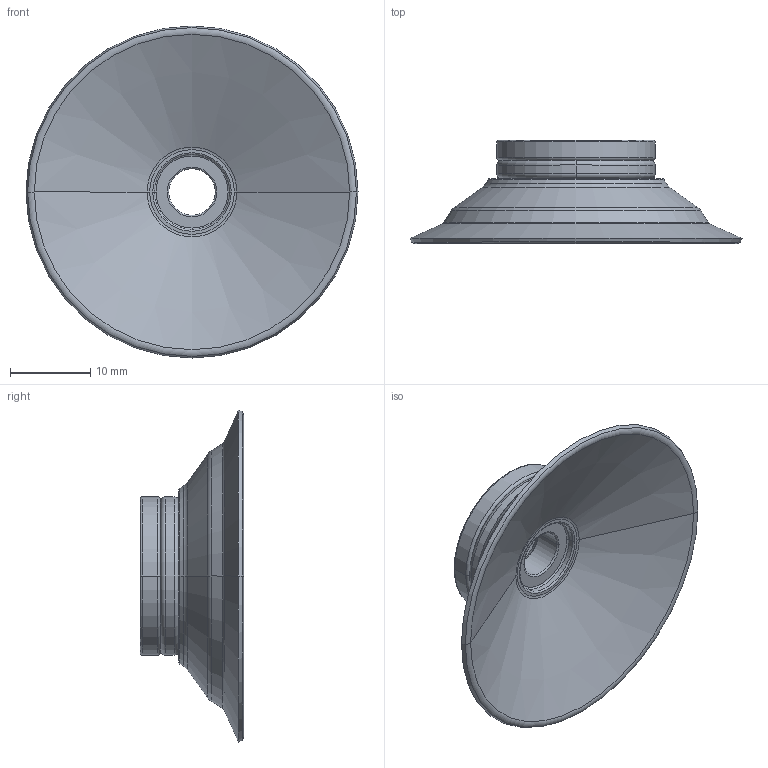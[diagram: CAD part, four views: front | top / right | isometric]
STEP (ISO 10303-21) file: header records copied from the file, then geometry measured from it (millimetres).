
FILE_DESCRIPTION (( 'STEP AP203' ), '1' );
FILE_NAME ('9_40--A.STEP', '2017-10-04T13:06:20', ( '' ), ( '' ), 'SwSTEP 2.0', 'SolidWorks 2016', '' );
FILE_SCHEMA (( 'CONFIG_CONTROL_DESIGN' ));
Length unit declared in the file: millimetre
Products named in the file (1): 9_40--A
Bounding box: 41.5 x 12.9 x 41.5 mm (x, y, z)
Volume: 4103.5 mm3; surface area: 4322.4 mm2
Topology: 2 solids, 2 shells, 80 faces, 160 edges, 88 vertices
Faces by surface type: torus 42, cone 16, cylinder 14, plane 8
Entity records: 2169 total; most frequent: DIRECTION 452, CARTESIAN_POINT 329, ORIENTED_EDGE 320, AXIS2_PLACEMENT_3D 211, EDGE_CURVE 160, CIRCLE 130, EDGE_LOOP 88, VERTEX_POINT 88
